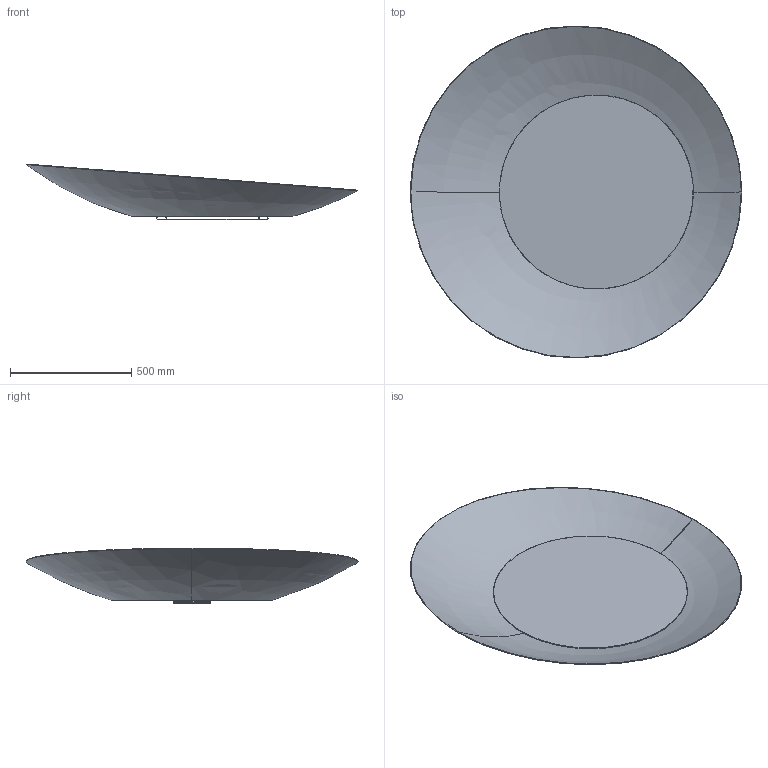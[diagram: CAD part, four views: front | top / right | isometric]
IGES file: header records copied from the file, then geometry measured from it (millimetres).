
Start section: SolidWorks IGES file using analytic representation for surfaces
Global section: file name: C:\VaultDeCastelli\Progetti\DC\PESO LEGGERO PRODOTTI\Ale\DeCastelli-3D-Brame.igs; native system: SolidWorks 2022; preprocessor: SolidWorks 2022; author: AlessandroP; date: 240719.130041; units: millimetre
Bounding box: 1365.78 x 1369.59 x 230.32 mm (x, y, z)
Surface area: 3989135 mm2 (no closed solid volume)
Topology: 0 solids, 0 shells, 179 faces, 3809 edges, 3809 vertices
Faces by surface type: bspline 93, revolution 86
